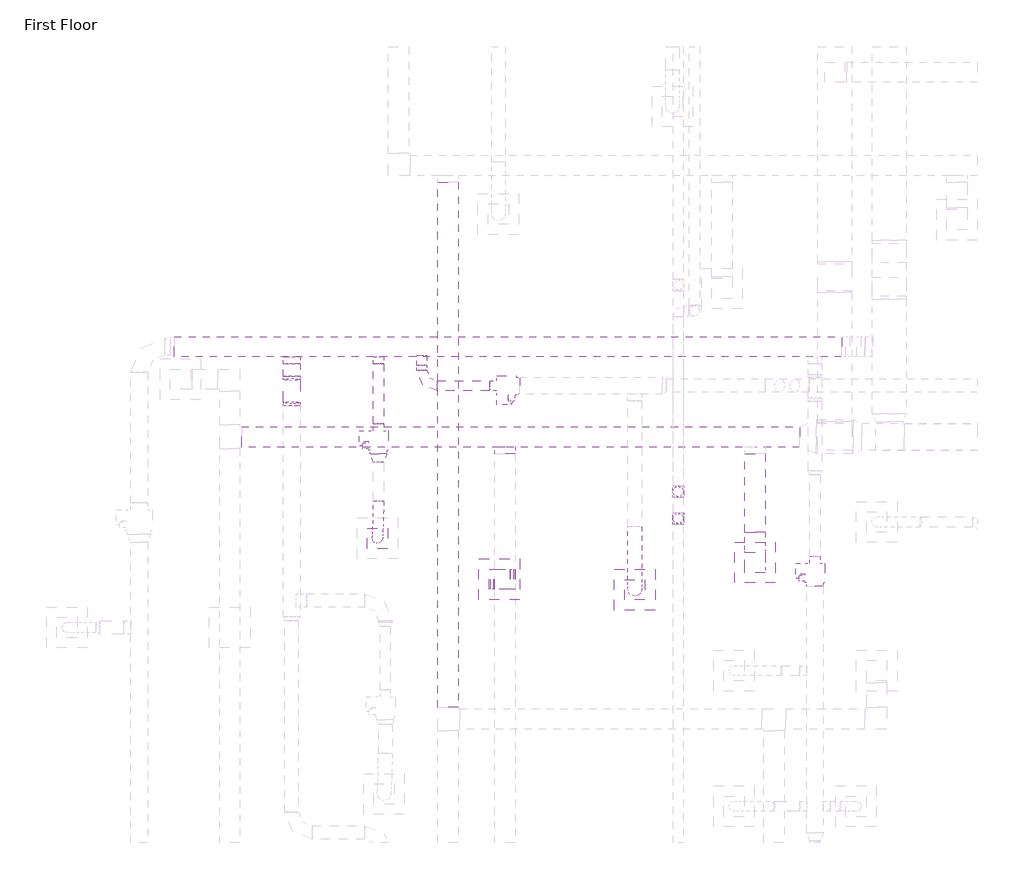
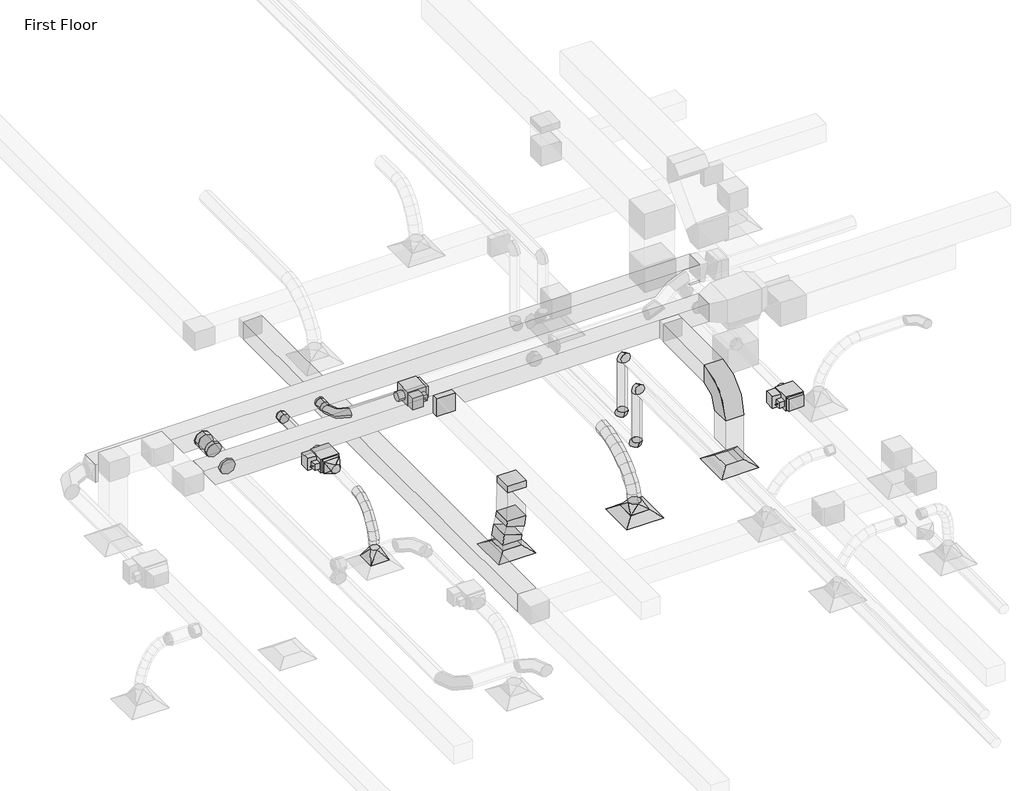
# One storey, part 5 of 61: 15 duct segments, 14 duct fittings, 4 pipe fittings, 3 air terminals, 3 proxies, 2 pipe segments.
"""IFC4 building model written with IfcOpenShell, lengths in millimetres."""

from ifc_helpers import new_model, si_unit, point, frame, frame_2d, origin, place, context, project, spatial, polyline, circle_curve, ellipse_curve, trimmed, segment, composite_curve, outline, extrude, transform, mapped, element, save
from ifc_brep_helpers import plane_surface, cylinder_surface, advanced_brep
from components import m_exhaust_grill_er_600_x_600_face_300_x_300_connection_ff221211, m_vav_unit_single_duct_150_mm_ffdab17b, m_rectangular_elbow_radius_1_5_w_86011e9f, m_rectangular_elbow_radius_1_5_w_1de02314, m_rectangular_takeoff_standard_b44bfa45, m_rectangular_takeoff_standard_6b8816d6, m_rectangular_to_round_transition_angle_45_degree_8f201c83, m_rectangular_to_round_transition_angle_45_degree_c3b12eae, m_rectangular_to_round_transition_angle_45_degree_60daae35, m_round_elbow_1_5_d_2e586196, m_round_elbow_1_5_d_30a58f77, m_round_takeoff_standard_ce92a222, m_round_takeoff_standard_b6d2ed4a, m_round_takeoff_standard_242be8e9, m_elbow_generic_standard_1652de39

model = new_model("IFC4")

# Units and contexts
model_context = context("Model", 3, world=origin())
ifc_project = project(units=[si_unit("LENGTHUNIT", "METRE", prefix="MILLI")], contexts=[model_context])

# Site, building, storey
site = spatial("IfcSite", under=ifc_project)
building = spatial("IfcBuilding", under=site)
storey = spatial("IfcBuildingStorey", under=building, Name="First Floor", Elevation=0.0)

# Air terminals
placement = place(None, origin())
m_exhaust_grill_er_600_x_600_face_300_x_300_connection_shape = m_exhaust_grill_er_600_x_600_face_300_x_300_connection_ff221211(model_context)
element("IfcAirTerminal", 1, ObjectType="M_Return Register : RR-600 x 600 Face 300 x 300 Connection", at=placement, inside=storey, context=model_context, shape_type="MappedRepresentation", body=[
    mapped(m_exhaust_grill_er_600_x_600_face_300_x_300_connection_shape, transform((-44809.2807972, 8437.277301, 2680.0), x_axis=(1.0, 0.0, 0.0), y_axis=(0.0, 1.0, 0.0), z_axis=(0.0, 0.0, 1.0))),
])
element("IfcAirTerminal", 2, ObjectType="M_Return Register : RR-600 x 600 Face 300 x 300 Connection", at=placement, inside=storey, context=model_context, shape_type="MappedRepresentation", body=[
    mapped(m_exhaust_grill_er_600_x_600_face_300_x_300_connection_shape, transform((-41042.2989734, 8681.7951782, 2680.0), x_axis=(1.0, 0.0, 0.0), y_axis=(0.0, 1.0, 0.0), z_axis=(0.0, 0.0, 1.0))),
])
element("IfcAirTerminal", 3, ObjectType="M_Supply Diffuser : SD-600 x 600 Face 300 x 300 Connection", at=placement, inside=storey, context=model_context, shape_type="MappedRepresentation", body=[
    mapped(m_exhaust_grill_er_600_x_600_face_300_x_300_connection_shape, transform((-42815.0807462, 8282.7245325, 2680.0), x_axis=(1.0, 0.0, 0.0), y_axis=(0.0, 1.0, 0.0), z_axis=(0.0, 0.0, 1.0))),
])

# Proxies
m_vav_unit_single_duct_150_mm_shape = m_vav_unit_single_duct_150_mm_ffdab17b(model_context)
element("IfcBuildingElementProxy", 4, Name="M_VAV Unit - Single Duct : 150 mm", ObjectType="M_VAV Unit - Single Duct : 150 mm", at=placement, inside=storey, context=model_context, shape_type="MappedRepresentation", body=[
    mapped(m_vav_unit_single_duct_150_mm_shape, transform((-46589.7634544, 10626.1176513, 3500.0), x_axis=(0.0, -1.0, 0.0), y_axis=(1.0, 0.0, 0.0), z_axis=(0.0, 0.0, 1.0))),
])
element("IfcBuildingElementProxy", 5, Name="M_VAV Unit - Single Duct : 150 mm", ObjectType="M_VAV Unit - Single Duct : 150 mm", at=placement, inside=storey, context=model_context, shape_type="MappedRepresentation", body=[
    mapped(m_vav_unit_single_duct_150_mm_shape, transform((-40159.2211613, 8673.9604859, 3499.9728744), x_axis=(0.0, -1.0, 0.0), y_axis=(1.0, 0.0, 0.0), z_axis=(0.0, 0.0, 1.0))),
])
element("IfcBuildingElementProxy", 6, Name="M_VAV Unit - Single Duct : 150 mm", ObjectType="M_VAV Unit - Single Duct : 150 mm", at=placement, inside=storey, context=model_context, shape_type="MappedRepresentation", body=[
    mapped(m_vav_unit_single_duct_150_mm_shape, transform((-44850.3815651, 11288.3243958, 3500.05), x_axis=(1.0000000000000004, 0.0, 0.0), y_axis=(0.0, 1.0000000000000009, 0.0), z_axis=(0.0, 0.0, 1.0000000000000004))),
])

# Duct fittings
m_rectangular_elbow_radius_1_5_w_shape = m_rectangular_elbow_radius_1_5_w_86011e9f(model_context)
element("IfcDuctFitting", 7, ObjectType="M_Rectangular Elbow - Radius : 1.5 W", at=placement, inside=storey, context=model_context, shape_type="MappedRepresentation", body=[
    mapped(m_rectangular_elbow_radius_1_5_w_shape, transform((-41042.2989734, 8681.7951782, 4000.0), x_axis=(0.0, 0.0, 1.0), y_axis=(0.0, 1.0, 0.0), z_axis=(-1.0, 0.0, 0.0))),
])
m_rectangular_elbow_radius_1_5_w_2_shape = m_rectangular_elbow_radius_1_5_w_1de02314(model_context)
element("IfcDuctFitting", 8, ObjectType="M_Rectangular Elbow - Radius : 1.5 W", at=placement, inside=storey, context=model_context, shape_type="MappedRepresentation", body=[
    mapped(m_rectangular_elbow_radius_1_5_w_2_shape, transform((-44809.2807972, 8437.277301, 2938.3615915), x_axis=(0.0, 0.0, 1.0), y_axis=(1.0, 0.0, 0.0), z_axis=(0.0, 1.0, 0.0))),
])
element("IfcDuctFitting", 9, ObjectType="M_Rectangular Elbow - Radius : 1.5 W", at=placement, inside=storey, context=model_context, shape_type="MappedRepresentation", body=[
    mapped(m_rectangular_elbow_radius_1_5_w_2_shape, transform((-44731.2844174, 8437.277301, 3192.5911285), x_axis=(0.29330219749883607, 0.0, 0.9560197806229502), y_axis=(-0.9560197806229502, 0.0, 0.29330219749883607), z_axis=(0.0, -1.0, 0.0))),
])
m_rectangular_takeoff_standard_shape = m_rectangular_takeoff_standard_b44bfa45(model_context)
element("IfcDuctFitting", 10, ObjectType="M_Rectangular Takeoff : Standard", at=placement, inside=storey, context=model_context, shape_type="MappedRepresentation", body=[
    mapped(m_rectangular_takeoff_standard_shape, transform((-44725.0192115, 10384.5124787, 4000.0), x_axis=(0.0, -1.0, 0.0), y_axis=(-1.0, 0.0, 0.0), z_axis=(0.0, 0.0, -1.0))),
])
m_rectangular_takeoff_standard_2_shape = m_rectangular_takeoff_standard_6b8816d6(model_context)
element("IfcDuctFitting", 11, ObjectType="M_Rectangular Takeoff : Standard", at=placement, inside=storey, context=model_context, shape_type="MappedRepresentation", body=[
    mapped(m_rectangular_takeoff_standard_2_shape, transform((-44723.7404207, 8437.277301, 3850.0), x_axis=(-0.012786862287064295, 0.0, -0.9999182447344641), y_axis=(0.9999182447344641, 0.0, -0.012786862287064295), z_axis=(0.0, -1.0, 0.0))),
])
m_rectangular_to_round_transition_angle_45_degree_shape = m_rectangular_to_round_transition_angle_45_degree_8f201c83(model_context)
element("IfcDuctFitting", 12, ObjectType="M_Rectangular to Round Transition - Angle : 45 Degree", at=placement, inside=storey, context=model_context, shape_type="MappedRepresentation", body=[
    mapped(m_rectangular_to_round_transition_angle_45_degree_shape, transform((-46605.270034, 9039.3672466, 2781.6), x_axis=(0.0, 0.0, 1.0), y_axis=(1.0, 0.0, 0.0), z_axis=(0.0, 1.0, 0.0))),
])
m_rectangular_to_round_transition_angle_45_degree_2_shape = m_rectangular_to_round_transition_angle_45_degree_c3b12eae(model_context)
element("IfcDuctFitting", 13, ObjectType="M_Rectangular to Round Transition - Angle : 45 Degree", at=placement, inside=storey, context=model_context, shape_type="MappedRepresentation", body=[
    mapped(m_rectangular_to_round_transition_angle_45_degree_2_shape, transform((-46589.7634544, 10283.3176513, 3619.05), x_axis=(0.0, -1.0, 0.0), y_axis=(1.0, 0.0, 0.0), z_axis=(0.0, 0.0, 1.0))),
])
m_rectangular_to_round_transition_angle_45_degree_3_shape = m_rectangular_to_round_transition_angle_45_degree_60daae35(model_context)
element("IfcDuctFitting", 14, ObjectType="M_Rectangular to Round Transition - Angle : 45 Degree", at=placement, inside=storey, context=model_context, shape_type="MappedRepresentation", body=[
    mapped(m_rectangular_to_round_transition_angle_45_degree_3_shape, transform((-42815.0807462, 8282.7245325, 2781.6), x_axis=(0.0, 0.0, 1.0), y_axis=(1.0, 0.0, 0.0), z_axis=(0.0, 1.0, 0.0))),
])
m_round_elbow_1_5_d_shape = m_round_elbow_1_5_d_2e586196(model_context)
element("IfcDuctFitting", 15, ObjectType="M_Round Elbow : 1.5 D", at=placement, inside=storey, context=model_context, shape_type="MappedRepresentation", body=[
    mapped(m_round_elbow_1_5_d_shape, transform((-45951.9815664, 11289.1743958, 3609.55), x_axis=(0.0, -1.0, 0.0), y_axis=(0.9999999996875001, 0.0, 2.4999999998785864e-05), z_axis=(-2.4999999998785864e-05, 0.0, 0.9999999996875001))),
])
m_round_elbow_1_5_d_2_shape = m_round_elbow_1_5_d_30a58f77(model_context)
element("IfcDuctFitting", 16, ObjectType="M_Round Elbow : 1.5 D", at=placement, inside=storey, context=model_context, shape_type="MappedRepresentation", body=[
    mapped(m_round_elbow_1_5_d_2_shape, transform((-47868.9134544, 11404.0724093, 3659.6), x_axis=(0.0, -1.0, 0.0), y_axis=(0.0, 0.0, -1.0), z_axis=(1.0, 0.0, 0.0))),
])
element("IfcDuctFitting", 17, ObjectType="M_Round Elbow : 1.5 D", at=placement, inside=storey, context=model_context, shape_type="MappedRepresentation", body=[
    mapped(m_round_elbow_1_5_d_2_shape, transform((-47868.9134544, 11014.3609651, 3609.5), x_axis=(0.0, -0.991837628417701, -0.12750732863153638), y_axis=(0.0, -0.12750732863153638, 0.991837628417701), z_axis=(-1.0, 0.0, 0.0))),
])
m_round_takeoff_standard_shape = m_round_takeoff_standard_ce92a222(model_context)
element("IfcDuctFitting", 18, ObjectType="M_Round Takeoff : Standard", at=placement, inside=storey, context=model_context, shape_type="MappedRepresentation", body=[
    mapped(m_round_takeoff_standard_shape, transform((-47868.9134544, 11711.1885196, 3659.6), x_axis=(0.0, -1.0, 0.0), y_axis=(-1.0, 0.0, 0.0), z_axis=(0.0, 0.0, -1.0))),
])
m_round_takeoff_standard_2_shape = m_round_takeoff_standard_b6d2ed4a(model_context)
element("IfcDuctFitting", 19, ObjectType="M_Round Takeoff : Standard", at=placement, inside=storey, context=model_context, shape_type="MappedRepresentation", body=[
    mapped(m_round_takeoff_standard_2_shape, transform((-46588.9134544, 11711.1885196, 3609.5033084), x_axis=(0.0, -0.9999999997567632, 2.2056146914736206e-05), y_axis=(-1.0, 0.0, 0.0), z_axis=(0.0, -2.2056146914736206e-05, -0.9999999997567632))),
])
m_round_takeoff_standard_3_shape = m_round_takeoff_standard_242be8e9(model_context)
element("IfcDuctFitting", 20, ObjectType="M_Round Takeoff : Standard", at=placement, inside=storey, context=model_context, shape_type="MappedRepresentation", body=[
    mapped(m_round_takeoff_standard_3_shape, transform((-45951.9815651, 11711.1885196, 3609.5), x_axis=(0.0, -1.0, 0.0), y_axis=(-1.0, 0.0, 0.0), z_axis=(0.0, 0.0, -1.0))),
])

# Duct segments
element("IfcDuctSegment", 21, ObjectType="Flex - Round", at=placement, inside=storey, context=model_context, shape_type="AdvancedBrep", body=[
    advanced_brep(
    [(-46514.7654131, 9582.7756174, 3609.5), (-46589.6689522, 9596.393364, 3535.6486845), (-46664.7614957, 9583.8596852, 3609.5), (-46589.8579566, 9570.2419385, 3683.3513155), (-46515.6274139, 9463.5056403, 3588.3816027), (-46590.446954, 9488.745824, 3516.5882002), (-46665.617425, 9465.4297793, 3588.5303489), (-46590.7978848, 9440.1895956, 3660.3237514), (-46530.2929882, 9037.5348379, 2962.3746904), (-46607.0530268, 8964.9525989, 2971.846493), (-46680.2470799, 9041.1996554, 2962.957344), (-46603.4870413, 9113.7818944, 2953.4855413), (-46517.8546353, 9350.6891413, 3530.1648621), (-46592.3089559, 9394.4289647, 3467.9178357), (-46667.8206549, 9353.8285386, 3530.9407185), (-46593.3663343, 9310.0887152, 3593.1877449), (-46520.8923729, 9249.0723623, 3442.9945987), (-46594.978388, 9305.1325455, 3391.316388), (-46670.8408814, 9252.7975315, 3444.2729497), (-46596.7548663, 9196.7373482, 3495.9511604), (-46524.1963235, 9162.7802862, 3334.7813597), (-46597.9568724, 9227.3409443, 3293.7630377), (-46674.1373991, 9166.6995855, 3336.3031566), (-46600.3768501, 9102.1389273, 3377.3214786), (-46527.2243588, 9095.978947, 3213.3986234), (-46600.7024422, 9166.7710648, 3183.7033023), (-46677.1673278, 9099.8564769, 3214.8445224), (-46603.6892445, 9029.0643591, 3244.5398435), (-46529.4353117, 9052.8567524, 3086.7368827), (-46602.6810638, 9128.1802336, 3070.3514215), (-46679.3868263, 9056.5676086, 3087.6932152), (-46606.1410741, 8981.2441275, 3104.0786764)],
    [
        (0, 1, circle_curve(frame((-46589.7634544, 9583.3176513, 3609.5), z_axis=(0.007116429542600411, 0.984658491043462, 0.17434739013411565), x_axis=(0.9999738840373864, -0.0072271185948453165, 0.0)), 75.0)),
        (1, 2, circle_curve(frame((-46589.7634544, 9583.3176513, 3609.5), z_axis=(0.007116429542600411, 0.984658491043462, 0.17434739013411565), x_axis=(0.9999738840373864, -0.0072271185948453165, 0.0)), 75.0)),
        (2, 3, circle_curve(frame((-46589.7634544, 9583.3176513, 3609.5), z_axis=(0.007116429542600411, 0.984658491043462, 0.17434739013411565), x_axis=(0.9999738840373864, -0.0072271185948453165, 0.0)), 75.0)),
        (3, 0, circle_curve(frame((-46589.7634544, 9583.3176513, 3609.5), z_axis=(0.007116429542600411, 0.984658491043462, 0.17434739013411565), x_axis=(0.9999738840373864, -0.0072271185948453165, 0.0)), 75.0)),
        (0, 4),
        (4, 5, ellipse_curve(frame((-46590.6224194, 9464.4677098, 3588.4559758), z_axis=(0.012470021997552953, 0.9473185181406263, 0.3200501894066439), x_axis=(-0.03473054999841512, 0.32029228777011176, -0.9466819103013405)), 75.8591903, 75.0)),
        (5, 1),
        (5, 6, ellipse_curve(frame((-46590.6224194, 9464.4677098, 3588.4559758), z_axis=(0.012470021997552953, 0.9473185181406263, 0.3200501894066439), x_axis=(-0.03473054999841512, 0.32029228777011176, -0.9466819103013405)), 75.8591903, 75.0)),
        (6, 2),
        (6, 7, ellipse_curve(frame((-46590.6224194, 9464.4677098, 3588.4559758), z_axis=(0.012470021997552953, 0.9473185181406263, 0.3200501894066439), x_axis=(-0.03473054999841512, 0.32029228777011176, -0.9466819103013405)), 75.8591903, 75.0)),
        (7, 3),
        (7, 4, ellipse_curve(frame((-46590.6224194, 9464.4677098, 3588.4559758), z_axis=(0.012470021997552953, 0.9473185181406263, 0.3200501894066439), x_axis=(-0.03473054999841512, 0.32029228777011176, -0.9466819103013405)), 75.8591903, 75.0)),
        (8, 9, circle_curve(frame((-46605.270034, 9039.3672466, 2962.6660172), z_axis=(-0.006844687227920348, -0.12227653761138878, -0.9924724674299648), x_axis=(0.9996939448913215, -0.024432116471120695, -0.0038843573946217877)), 75.0)),
        (9, 10, circle_curve(frame((-46605.270034, 9039.3672466, 2962.6660172), z_axis=(-0.006844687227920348, -0.12227653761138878, -0.9924724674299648), x_axis=(0.9996939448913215, -0.024432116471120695, -0.0038843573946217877)), 75.0)),
        (10, 11, circle_curve(frame((-46605.270034, 9039.3672466, 2962.6660172), z_axis=(-0.006844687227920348, -0.12227653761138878, -0.9924724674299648), x_axis=(0.9996939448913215, -0.024432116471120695, -0.0038843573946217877)), 75.0)),
        (11, 8, circle_curve(frame((-46605.270034, 9039.3672466, 2962.6660172), z_axis=(-0.006844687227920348, -0.12227653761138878, -0.9924724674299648), x_axis=(0.9996939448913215, -0.024432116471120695, -0.0038843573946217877)), 75.0)),
        (4, 12),
        (12, 13, ellipse_curve(frame((-46592.8376451, 9352.2588399, 3530.5527903), z_axis=(0.02024924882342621, 0.8292649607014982, 0.5584886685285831), x_axis=(-0.022154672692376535, 0.5588382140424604, -0.8289807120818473)), 75.5102819, 75.0)),
        (13, 5),
        (13, 14, ellipse_curve(frame((-46592.8376451, 9352.2588399, 3530.5527903), z_axis=(0.02024924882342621, 0.8292649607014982, 0.5584886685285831), x_axis=(-0.022154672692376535, 0.5588382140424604, -0.8289807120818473)), 75.5102819, 75.0)),
        (14, 6),
        (14, 15, ellipse_curve(frame((-46592.8376451, 9352.2588399, 3530.5527903), z_axis=(0.02024924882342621, 0.8292649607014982, 0.5584886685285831), x_axis=(-0.022154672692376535, 0.5588382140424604, -0.8289807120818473)), 75.5102819, 75.0)),
        (15, 7),
        (15, 12, ellipse_curve(frame((-46592.8376451, 9352.2588399, 3530.5527903), z_axis=(0.02024924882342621, 0.8292649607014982, 0.5584886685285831), x_axis=(-0.022154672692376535, 0.5588382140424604, -0.8289807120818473)), 75.5102819, 75.0)),
        (12, 16),
        (16, 17, ellipse_curve(frame((-46595.8666271, 9250.9349469, 3443.6337742), z_axis=(0.02337791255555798, 0.6941285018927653, 0.7194714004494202), x_axis=(-0.006271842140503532, 0.7197557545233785, -0.6941990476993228)), 75.3345481, 75.0)),
        (17, 13),
        (17, 18, ellipse_curve(frame((-46595.8666271, 9250.9349469, 3443.6337742), z_axis=(0.02337791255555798, 0.6941285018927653, 0.7194714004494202), x_axis=(-0.006271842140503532, 0.7197557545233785, -0.6941990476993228)), 75.3345481, 75.0)),
        (18, 14),
        (18, 19, ellipse_curve(frame((-46595.8666271, 9250.9349469, 3443.6337742), z_axis=(0.02337791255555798, 0.6941285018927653, 0.7194714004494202), x_axis=(-0.006271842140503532, 0.7197557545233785, -0.6941990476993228)), 75.3345481, 75.0)),
        (19, 15),
        (19, 16, ellipse_curve(frame((-46595.8666271, 9250.9349469, 3443.6337742), z_axis=(0.02337791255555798, 0.6941285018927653, 0.7194714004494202), x_axis=(-0.006271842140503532, 0.7197557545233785, -0.6941990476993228)), 75.3345481, 75.0)),
        (16, 20),
        (20, 21, ellipse_curve(frame((-46599.1668613, 9164.7399358, 3335.5422582), z_axis=(0.022940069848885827, 0.5546631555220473, 0.8317587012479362), x_axis=(0.011862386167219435, 0.8317680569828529, -0.5549965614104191)), 75.2718695, 75.0)),
        (21, 17),
        (21, 22, ellipse_curve(frame((-46599.1668613, 9164.7399358, 3335.5422582), z_axis=(0.022940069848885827, 0.5546631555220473, 0.8317587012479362), x_axis=(0.011862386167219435, 0.8317680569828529, -0.5549965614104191)), 75.2718695, 75.0)),
        (22, 18),
        (22, 23, ellipse_curve(frame((-46599.1668613, 9164.7399358, 3335.5422582), z_axis=(0.022940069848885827, 0.5546631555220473, 0.8317587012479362), x_axis=(0.011862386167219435, 0.8317680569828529, -0.5549965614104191)), 75.2718695, 75.0)),
        (23, 19),
        (23, 20, ellipse_curve(frame((-46599.1668613, 9164.7399358, 3335.5422582), z_axis=(0.022940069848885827, 0.5546631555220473, 0.8317587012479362), x_axis=(0.011862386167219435, 0.8317680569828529, -0.5549965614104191)), 75.2718695, 75.0)),
        (20, 24),
        (24, 25, ellipse_curve(frame((-46602.1958433, 9097.917712, 3214.1215729), z_axis=(0.019259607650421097, 0.4036803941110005, 0.9146973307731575), x_axis=(0.030483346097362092, 0.9142046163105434, -0.4041047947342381)), 75.2880507, 75.0)),
        (25, 21),
        (25, 26, ellipse_curve(frame((-46602.1958433, 9097.917712, 3214.1215729), z_axis=(0.019259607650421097, 0.4036803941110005, 0.9146973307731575), x_axis=(0.030483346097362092, 0.9142046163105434, -0.4041047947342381)), 75.2880507, 75.0)),
        (26, 22),
        (26, 27, ellipse_curve(frame((-46602.1958433, 9097.917712, 3214.1215729), z_axis=(0.019259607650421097, 0.4036803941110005, 0.9146973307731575), x_axis=(0.030483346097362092, 0.9142046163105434, -0.4041047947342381)), 75.2880507, 75.0)),
        (27, 23),
        (27, 24, ellipse_curve(frame((-46602.1958433, 9097.917712, 3214.1215729), z_axis=(0.019259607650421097, 0.4036803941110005, 0.9146973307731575), x_axis=(0.030483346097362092, 0.9142046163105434, -0.4041047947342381)), 75.2880507, 75.0)),
        (24, 28),
        (28, 29, ellipse_curve(frame((-46604.411069, 9054.7121805, 3087.215049), z_axis=(0.01174541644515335, 0.22344078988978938, 0.9746467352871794), x_axis=(0.04711249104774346, 0.9735078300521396, -0.22374744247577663)), 75.3987076, 75.0)),
        (29, 25),
        (29, 30, ellipse_curve(frame((-46604.411069, 9054.7121805, 3087.215049), z_axis=(0.01174541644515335, 0.22344078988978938, 0.9746467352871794), x_axis=(0.04711249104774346, 0.9735078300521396, -0.22374744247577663)), 75.3987076, 75.0)),
        (30, 26),
        (30, 31, ellipse_curve(frame((-46604.411069, 9054.7121805, 3087.215049), z_axis=(0.01174541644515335, 0.22344078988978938, 0.9746467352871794), x_axis=(0.04711249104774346, 0.9735078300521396, -0.22374744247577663)), 75.3987076, 75.0)),
        (31, 27),
        (31, 28, ellipse_curve(frame((-46604.411069, 9054.7121805, 3087.215049), z_axis=(0.01174541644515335, 0.22344078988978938, 0.9746467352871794), x_axis=(0.04711249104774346, 0.9735078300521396, -0.22374744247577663)), 75.3987076, 75.0)),
        (28, 8),
        (11, 29),
        (10, 30),
        (9, 31),
    ],
    [
        plane_surface(frame((-46589.7634544, 9596.3940367, 3535.6487431), z_axis=(0.007116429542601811, 0.9846584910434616, 0.17434739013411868), x_axis=(0.9999746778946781, -0.007007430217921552, -0.0012407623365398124))),
        cylinder_surface(frame((-46589.7634544, 9583.3176513, 3609.5), z_axis=(0.007116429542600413, 0.9846584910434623, 0.17434739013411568), x_axis=(0.9999738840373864, -0.0072271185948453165, 0.0)), 75.0),
        plane_surface(frame((-46605.270034, 9113.8044254, 2953.495062), z_axis=(-0.006844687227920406, -0.12227653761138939, -0.9924724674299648), x_axis=(0.9999765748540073, -0.0008369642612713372, -0.006793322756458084))),
        cylinder_surface(frame((-46590.6224194, 9464.4677098, 3588.4559758), z_axis=(0.017541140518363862, 0.8885196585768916, 0.4585031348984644), x_axis=(0.9998336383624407, -0.01788125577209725, -0.003599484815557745)), 75.0),
        cylinder_surface(frame((-46592.8376451, 9352.2588399, 3530.5527903), z_axis=(0.022683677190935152, 0.7588022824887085, 0.6509259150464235), x_axis=(0.9996956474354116, -0.023532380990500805, -0.007405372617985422)), 75.0),
        cylinder_surface(frame((-46595.8666271, 9250.9349469, 3443.6337742), z_axis=(0.023864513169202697, 0.6232897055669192, 0.7816267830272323), x_axis=(0.9996157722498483, -0.02590400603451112, -0.009863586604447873)), 75.0),
        cylinder_surface(frame((-46599.1668613, 9164.7399358, 3335.5422582), z_axis=(0.021849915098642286, 0.48202990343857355, 0.8758822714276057), x_axis=(0.9995992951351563, -0.026302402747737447, -0.010461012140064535)), 75.0),
        cylinder_surface(frame((-46602.1958433, 9097.917712, 3214.1215729), z_axis=(0.01652192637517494, 0.3222419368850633, 0.9465131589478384), x_axis=(0.9996352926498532, -0.025547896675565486, -0.008751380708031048)), 75.0),
        cylinder_surface(frame((-46604.411069, 9054.7121805, 3087.215049), z_axis=(0.00684468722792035, 0.1222765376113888, 0.992472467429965), x_axis=(0.9996939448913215, -0.024432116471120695, -0.0038843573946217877)), 75.0),
    ],
    [
        (0, [[1, 2, 3, 4]]),
        (1, [[-1, 5, 6, 7]]),
        (1, [[-2, -7, 8, 9]]),
        (1, [[-3, -9, 10, 11]]),
        (1, [[-4, -11, 12, -5]]),
        (2, [[13, 14, 15, 16]]),
        (3, [[-6, 17, 18, 19]]),
        (3, [[-8, -19, 20, 21]]),
        (3, [[-10, -21, 22, 23]]),
        (3, [[-12, -23, 24, -17]]),
        (4, [[-18, 25, 26, 27]]),
        (4, [[-20, -27, 28, 29]]),
        (4, [[-22, -29, 30, 31]]),
        (4, [[-24, -31, 32, -25]]),
        (5, [[-26, 33, 34, 35]]),
        (5, [[-28, -35, 36, 37]]),
        (5, [[-30, -37, 38, 39]]),
        (5, [[-32, -39, 40, -33]]),
        (6, [[-34, 41, 42, 43]]),
        (6, [[-36, -43, 44, 45]]),
        (6, [[-38, -45, 46, 47]]),
        (6, [[-40, -47, 48, -41]]),
        (7, [[-42, 49, 50, 51]]),
        (7, [[-44, -51, 52, 53]]),
        (7, [[-46, -53, 54, 55]]),
        (7, [[-48, -55, 56, -49]]),
        (8, [[-50, 57, -16, 58]]),
        (8, [[-52, -58, -15, 59]]),
        (8, [[-54, -59, -14, 60]]),
        (8, [[-56, -60, -13, -57]]),
    ],
),
])
element("IfcDuctSegment", 22, ObjectType="Flex - Round", at=placement, inside=storey, context=model_context, shape_type="AdvancedBrep", body=[
    advanced_brep(
    [(-42715.0807462, 9210.3305744, 3619.1), (-42815.0807462, 9218.9945106, 3519.4760259), (-42915.0807462, 9210.3305744, 3619.1), (-42815.0807462, 9201.6666383, 3718.7239741), (-42715.0807462, 9075.6034723, 3607.383272), (-42815.0807462, 9091.7382785, 3508.4090124), (-42915.0807462, 9075.6034723, 3607.383272), (-42815.0807462, 9059.4686661, 3706.3575315), (-42715.0807462, 8282.7245325, 2902.3106781), (-42815.0807462, 8183.8107047, 2917.0094759), (-42915.0807462, 8282.7245325, 2902.3106781), (-42815.0807462, 8381.6383604, 2887.6118803), (-42715.0807462, 8935.6760133, 3573.6668264), (-42815.0807462, 8965.4369227, 3477.9758664), (-42915.0807462, 8935.6760133, 3573.6668264), (-42815.0807462, 8905.9151039, 3669.3577864), (-42715.0807462, 8796.1690395, 3520.1012712), (-42815.0807462, 8837.8014765, 3428.9685419), (-42915.0807462, 8796.1690395, 3520.1012712), (-42815.0807462, 8754.5366024, 3611.2340005), (-42715.0807462, 8662.7033927, 3448.8372142), (-42815.0807462, 8715.4922641, 3363.6614693), (-42915.0807462, 8662.7033927, 3448.8372142), (-42815.0807462, 8609.9145212, 3534.0129591), (-42715.0807462, 8540.8999149, 3362.0252634), (-42815.0807462, 8604.858982, 3284.8107565), (-42915.0807462, 8540.8999149, 3362.0252634), (-42815.0807462, 8476.9408477, 3439.2397702), (-42715.0807462, 8436.379448, 3261.8160264), (-42815.0807462, 8511.8958626, 3195.6821529), (-42915.0807462, 8436.379448, 3261.8160264), (-42815.0807462, 8360.8630334, 3327.9498999), (-42715.0807462, 8354.762834, 3150.3601113), (-42815.0807462, 8441.8859038, 3100.076324), (-42915.0807462, 8354.762834, 3150.3601113), (-42815.0807462, 8267.6397643, 3200.6438986), (-42715.0807462, 8301.6709149, 3029.8081259), (-42815.0807462, 8398.6082789, 3001.8089477), (-42915.0807462, 8301.6709149, 3029.8081259), (-42815.0807462, 8204.7335509, 3057.8073042)],
    [
        (0, 1, circle_curve(frame((-42815.0807462, 9210.3305744, 3619.1), z_axis=(0.0, 0.99623974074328, 0.08663936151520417), x_axis=(1.0, 0.0, 0.0)), 100.0)),
        (1, 2, circle_curve(frame((-42815.0807462, 9210.3305744, 3619.1), z_axis=(0.0, 0.99623974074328, 0.08663936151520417), x_axis=(1.0, 0.0, 0.0)), 100.0)),
        (2, 3, circle_curve(frame((-42815.0807462, 9210.3305744, 3619.1), z_axis=(0.0, 0.99623974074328, 0.08663936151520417), x_axis=(1.0, 0.0, 0.0)), 100.0)),
        (3, 0, circle_curve(frame((-42815.0807462, 9210.3305744, 3619.1), z_axis=(0.0, 0.99623974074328, 0.08663936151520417), x_axis=(1.0, 0.0, 0.0)), 100.0)),
        (0, 4),
        (4, 5, ellipse_curve(frame((-42815.0807462, 9075.6034723, 3607.383272), z_axis=(0.0, 0.986971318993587, 0.1608962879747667), x_axis=(0.0, 0.1608962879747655, -0.9869713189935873)), 100.2807859, 100.0)),
        (5, 1),
        (5, 6, ellipse_curve(frame((-42815.0807462, 9075.6034723, 3607.383272), z_axis=(0.0, 0.986971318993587, 0.1608962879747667), x_axis=(0.0, 0.1608962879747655, -0.9869713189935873)), 100.2807859, 100.0)),
        (6, 2),
        (6, 7, ellipse_curve(frame((-42815.0807462, 9075.6034723, 3607.383272), z_axis=(0.0, 0.986971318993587, 0.1608962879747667), x_axis=(0.0, 0.1608962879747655, -0.9869713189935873)), 100.2807859, 100.0)),
        (7, 3),
        (7, 4, ellipse_curve(frame((-42815.0807462, 9075.6034723, 3607.383272), z_axis=(0.0, 0.986971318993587, 0.1608962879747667), x_axis=(0.0, 0.1608962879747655, -0.9869713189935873)), 100.2807859, 100.0)),
        (8, 9, circle_curve(frame((-42815.0807462, 8282.7245325, 2902.3106781), z_axis=(0.0, -0.1469879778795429, -0.9891382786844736), x_axis=(1.0, 0.0, 0.0)), 100.0)),
        (9, 10, circle_curve(frame((-42815.0807462, 8282.7245325, 2902.3106781), z_axis=(0.0, -0.1469879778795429, -0.9891382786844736), x_axis=(1.0, 0.0, 0.0)), 100.0)),
        (10, 11, circle_curve(frame((-42815.0807462, 8282.7245325, 2902.3106781), z_axis=(0.0, -0.1469879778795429, -0.9891382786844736), x_axis=(1.0, 0.0, 0.0)), 100.0)),
        (11, 8, circle_curve(frame((-42815.0807462, 8282.7245325, 2902.3106781), z_axis=(0.0, -0.1469879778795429, -0.9891382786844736), x_axis=(1.0, 0.0, 0.0)), 100.0)),
        (4, 12),
        (12, 13, ellipse_curve(frame((-42815.0807462, 8935.6760133, 3573.6668264), z_axis=(0.0, 0.9548839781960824, 0.2969791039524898), x_axis=(0.0, 0.2969791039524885, -0.9548839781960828)), 100.2121328, 100.0)),
        (13, 5),
        (13, 14, ellipse_curve(frame((-42815.0807462, 8935.6760133, 3573.6668264), z_axis=(0.0, 0.9548839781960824, 0.2969791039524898), x_axis=(0.0, 0.2969791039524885, -0.9548839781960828)), 100.2121328, 100.0)),
        (14, 6),
        (14, 15, ellipse_curve(frame((-42815.0807462, 8935.6760133, 3573.6668264), z_axis=(0.0, 0.9548839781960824, 0.2969791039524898), x_axis=(0.0, 0.2969791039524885, -0.9548839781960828)), 100.2121328, 100.0)),
        (15, 7),
        (15, 12, ellipse_curve(frame((-42815.0807462, 8935.6760133, 3573.6668264), z_axis=(0.0, 0.9548839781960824, 0.2969791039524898), x_axis=(0.0, 0.2969791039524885, -0.9548839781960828)), 100.2121328, 100.0)),
        (12, 16),
        (16, 17, ellipse_curve(frame((-42815.0807462, 8796.1690395, 3520.1012712), z_axis=(0.0, 0.909581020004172, 0.41552661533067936), x_axis=(0.0, 0.41552661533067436, -0.9095810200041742)), 100.1919865, 100.0)),
        (17, 13),
        (17, 18, ellipse_curve(frame((-42815.0807462, 8796.1690395, 3520.1012712), z_axis=(0.0, 0.909581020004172, 0.41552661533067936), x_axis=(0.0, 0.41552661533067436, -0.9095810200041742)), 100.1919865, 100.0)),
        (18, 14),
        (18, 19, ellipse_curve(frame((-42815.0807462, 8796.1690395, 3520.1012712), z_axis=(0.0, 0.909581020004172, 0.41552661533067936), x_axis=(0.0, 0.41552661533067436, -0.9095810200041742)), 100.1919865, 100.0)),
        (19, 15),
        (19, 16, ellipse_curve(frame((-42815.0807462, 8796.1690395, 3520.1012712), z_axis=(0.0, 0.909581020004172, 0.41552661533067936), x_axis=(0.0, 0.41552661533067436, -0.9095810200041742)), 100.1919865, 100.0)),
        (16, 20),
        (20, 21, ellipse_curve(frame((-42815.0807462, 8662.7033927, 3448.8372142), z_axis=(0.0, 0.8499924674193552, 0.5267948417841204), x_axis=(0.0, 0.526794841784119, -0.8499924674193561)), 100.2076468, 100.0)),
        (21, 17),
        (21, 22, ellipse_curve(frame((-42815.0807462, 8662.7033927, 3448.8372142), z_axis=(0.0, 0.8499924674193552, 0.5267948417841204), x_axis=(0.0, 0.526794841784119, -0.8499924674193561)), 100.2076468, 100.0)),
        (22, 18),
        (22, 23, ellipse_curve(frame((-42815.0807462, 8662.7033927, 3448.8372142), z_axis=(0.0, 0.8499924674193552, 0.5267948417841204), x_axis=(0.0, 0.526794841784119, -0.8499924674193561)), 100.2076468, 100.0)),
        (23, 19),
        (23, 20, ellipse_curve(frame((-42815.0807462, 8662.7033927, 3448.8372142), z_axis=(0.0, 0.8499924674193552, 0.5267948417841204), x_axis=(0.0, 0.526794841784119, -0.8499924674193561)), 100.2076468, 100.0)),
        (20, 24),
        (24, 25, ellipse_curve(frame((-42815.0807462, 8540.8999149, 3362.0252634), z_axis=(0.0, 0.7701130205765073, 0.6379074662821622), x_axis=(0.0, 0.6379074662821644, -0.7701130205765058)), 100.2638636, 100.0)),
        (25, 21),
        (25, 26, ellipse_curve(frame((-42815.0807462, 8540.8999149, 3362.0252634), z_axis=(0.0, 0.7701130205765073, 0.6379074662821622), x_axis=(0.0, 0.6379074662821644, -0.7701130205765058)), 100.2638636, 100.0)),
        (26, 22),
        (26, 27, ellipse_curve(frame((-42815.0807462, 8540.8999149, 3362.0252634), z_axis=(0.0, 0.7701130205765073, 0.6379074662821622), x_axis=(0.0, 0.6379074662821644, -0.7701130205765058)), 100.2638636, 100.0)),
        (27, 23),
        (27, 24, ellipse_curve(frame((-42815.0807462, 8540.8999149, 3362.0252634), z_axis=(0.0, 0.7701130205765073, 0.6379074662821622), x_axis=(0.0, 0.6379074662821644, -0.7701130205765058)), 100.2638636, 100.0)),
        (24, 28),
        (28, 29, ellipse_curve(frame((-42815.0807462, 8436.379448, 3261.8160264), z_axis=(0.0, 0.6588262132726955, 0.7522951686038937), x_axis=(0.0, 0.7522951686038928, -0.6588262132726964)), 100.3813633, 100.0)),
        (29, 25),
        (29, 30, ellipse_curve(frame((-42815.0807462, 8436.379448, 3261.8160264), z_axis=(0.0, 0.6588262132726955, 0.7522951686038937), x_axis=(0.0, 0.7522951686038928, -0.6588262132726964)), 100.3813633, 100.0)),
        (30, 26),
        (30, 31, ellipse_curve(frame((-42815.0807462, 8436.379448, 3261.8160264), z_axis=(0.0, 0.6588262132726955, 0.7522951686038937), x_axis=(0.0, 0.7522951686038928, -0.6588262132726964)), 100.3813633, 100.0)),
        (31, 27),
        (31, 28, ellipse_curve(frame((-42815.0807462, 8436.379448, 3261.8160264), z_axis=(0.0, 0.6588262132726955, 0.7522951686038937), x_axis=(0.0, 0.7522951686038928, -0.6588262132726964)), 100.3813633, 100.0)),
        (28, 32),
        (32, 33, ellipse_curve(frame((-42815.0807462, 8354.762834, 3150.3601113), z_axis=(0.0, 0.4998751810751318, 0.8660974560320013), x_axis=(0.0, 0.8660974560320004, -0.4998751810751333)), 100.5926864, 100.0)),
        (33, 29),
        (33, 34, ellipse_curve(frame((-42815.0807462, 8354.762834, 3150.3601113), z_axis=(0.0, 0.4998751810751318, 0.8660974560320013), x_axis=(0.0, 0.8660974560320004, -0.4998751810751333)), 100.5926864, 100.0)),
        (34, 30),
        (34, 35, ellipse_curve(frame((-42815.0807462, 8354.762834, 3150.3601113), z_axis=(0.0, 0.4998751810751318, 0.8660974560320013), x_axis=(0.0, 0.8660974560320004, -0.4998751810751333)), 100.5926864, 100.0)),
        (35, 31),
        (35, 32, ellipse_curve(frame((-42815.0807462, 8354.762834, 3150.3601113), z_axis=(0.0, 0.4998751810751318, 0.8660974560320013), x_axis=(0.0, 0.8660974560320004, -0.4998751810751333)), 100.5926864, 100.0)),
        (32, 36),
        (36, 37, ellipse_curve(frame((-42815.0807462, 8301.6709149, 3029.8081259), z_axis=(0.0, 0.2774943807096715, 0.9607272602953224), x_axis=(0.0, 0.9607272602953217, -0.27749438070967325)), 100.8999828, 100.0)),
        (37, 33),
        (37, 38, ellipse_curve(frame((-42815.0807462, 8301.6709149, 3029.8081259), z_axis=(0.0, 0.2774943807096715, 0.9607272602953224), x_axis=(0.0, 0.9607272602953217, -0.27749438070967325)), 100.8999828, 100.0)),
        (38, 34),
        (38, 39, ellipse_curve(frame((-42815.0807462, 8301.6709149, 3029.8081259), z_axis=(0.0, 0.2774943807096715, 0.9607272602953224), x_axis=(0.0, 0.9607272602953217, -0.27749438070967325)), 100.8999828, 100.0)),
        (39, 35),
        (39, 36, ellipse_curve(frame((-42815.0807462, 8301.6709149, 3029.8081259), z_axis=(0.0, 0.2774943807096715, 0.9607272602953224), x_axis=(0.0, 0.9607272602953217, -0.27749438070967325)), 100.8999828, 100.0)),
        (36, 8),
        (11, 37),
        (10, 38),
        (9, 39),
    ],
    [
        plane_surface(frame((-42815.0807462, 9218.9945106, 3519.4760259), z_axis=(0.0, 0.99623974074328, 0.0866393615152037), x_axis=(1.0, 0.0, 0.0))),
        cylinder_surface(frame((-42815.0807462, 9210.3305744, 3619.1), z_axis=(0.0, 0.99623974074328, 0.08663936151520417), x_axis=(1.0, 0.0, 0.0)), 100.0),
        plane_surface(frame((-42815.0807462, 8381.6383604, 2887.6118803), z_axis=(0.0, -0.14698797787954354, -0.9891382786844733), x_axis=(1.0, 0.0, 0.0))),
        cylinder_surface(frame((-42815.0807462, 9075.6034723, 3607.383272), z_axis=(0.0, 0.9721758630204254, 0.23425219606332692), x_axis=(1.0, 0.0, 0.0)), 100.0),
        cylinder_surface(frame((-42815.0807462, 8935.6760133, 3573.6668264), z_axis=(0.0, 0.9335494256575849, 0.35844869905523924), x_axis=(1.0, 0.0, 0.0)), 100.0),
        cylinder_surface(frame((-42815.0807462, 8796.1690395, 3520.1012712), z_axis=(0.0, 0.8821267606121, 0.4710120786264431), x_axis=(1.0, 0.0, 0.0)), 100.0),
        cylinder_surface(frame((-42815.0807462, 8662.7033927, 3448.8372142), z_axis=(0.0, 0.8143355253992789, 0.5803943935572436), x_axis=(1.0, 0.0, 0.0)), 100.0),
        cylinder_surface(frame((-42815.0807462, 8540.8999149, 3362.0252634), z_axis=(0.0, 0.7218371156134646, 0.692062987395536), x_axis=(1.0, 0.0, 0.0)), 100.0),
        cylinder_surface(frame((-42815.0807462, 8436.379448, 3261.8160264), z_axis=(0.0, 0.5908093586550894, 0.8068111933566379), x_axis=(1.0, 0.0, 0.0)), 100.0),
        cylinder_surface(frame((-42815.0807462, 8354.762834, 3150.3601113), z_axis=(0.0, 0.403050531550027, 0.9151777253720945), x_axis=(1.0, 0.0, 0.0)), 100.0),
        cylinder_surface(frame((-42815.0807462, 8301.6709149, 3029.8081259), z_axis=(0.0, 0.14698797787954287, 0.9891382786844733), x_axis=(1.0, 0.0, 0.0)), 100.0),
    ],
    [
        (0, [[1, 2, 3, 4]]),
        (1, [[-1, 5, 6, 7]]),
        (1, [[-2, -7, 8, 9]]),
        (1, [[-3, -9, 10, 11]]),
        (1, [[-4, -11, 12, -5]]),
        (2, [[13, 14, 15, 16]]),
        (3, [[-6, 17, 18, 19]]),
        (3, [[-8, -19, 20, 21]]),
        (3, [[-10, -21, 22, 23]]),
        (3, [[-12, -23, 24, -17]]),
        (4, [[-18, 25, 26, 27]]),
        (4, [[-20, -27, 28, 29]]),
        (4, [[-22, -29, 30, 31]]),
        (4, [[-24, -31, 32, -25]]),
        (5, [[-26, 33, 34, 35]]),
        (5, [[-28, -35, 36, 37]]),
        (5, [[-30, -37, 38, 39]]),
        (5, [[-32, -39, 40, -33]]),
        (6, [[-34, 41, 42, 43]]),
        (6, [[-36, -43, 44, 45]]),
        (6, [[-38, -45, 46, 47]]),
        (6, [[-40, -47, 48, -41]]),
        (7, [[-42, 49, 50, 51]]),
        (7, [[-44, -51, 52, 53]]),
        (7, [[-46, -53, 54, 55]]),
        (7, [[-48, -55, 56, -49]]),
        (8, [[-50, 57, 58, 59]]),
        (8, [[-52, -59, 60, 61]]),
        (8, [[-54, -61, 62, 63]]),
        (8, [[-56, -63, 64, -57]]),
        (9, [[-58, 65, 66, 67]]),
        (9, [[-60, -67, 68, 69]]),
        (9, [[-62, -69, 70, 71]]),
        (9, [[-64, -71, 72, -65]]),
        (10, [[-66, 73, -16, 74]]),
        (10, [[-68, -74, -15, 75]]),
        (10, [[-70, -75, -14, 76]]),
        (10, [[-72, -76, -13, -73]]),
    ],
),
])
element("IfcDuctSegment", 23, ObjectType="Mitered Elbows / Taps", at=placement, inside=storey, context=model_context, shape_type="SweptSolid", body=[
    extrude(outline(polyline([(150.0, 62.1320344), (-150.0, 62.1320344), (-150.0, 362.1320344), (150.0, 362.1320344), (150.0, 62.1320344)])), frame((-44731.2844174, 8225.1452666, 3260.0679456), z_axis=(0.012786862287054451, 0.0, 0.9999182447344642), x_axis=(0.9999182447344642, 0.0, -0.012786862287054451)), (0.0, 0.0, 1.0), 488.0621023),
])
element("IfcDuctSegment", 24, ObjectType="Mitered Elbows / Taps", at=placement, inside=storey, context=model_context, shape_type="SweptSolid", body=[
    extrude(outline(polyline([(-48606.3815051, 10384.5124787), (-48606.3815051, 10684.5124787), (-40383.8409124, 10684.5124787), (-40383.8409124, 10384.5124787), (-48606.3815051, 10384.5124787)])), frame((0.0, 0.0, 3850.0), z_axis=(0.0, 0.0, 1.0), x_axis=(1.0, 0.0, 0.0)), (0.0, 0.0, 1.0), 300.0),
])
element("IfcDuctSegment", 25, ObjectType="Mitered Elbows / Taps", at=placement, inside=storey, context=model_context, shape_type="SweptSolid", body=[
    extrude(outline(polyline([(-45715.5775939, 14284.3952), (-45415.5775939, 14284.3952), (-45415.5775939, 6551.0224534), (-45715.5775939, 6551.0224534), (-45715.5775939, 14284.3952)])), frame((0.0, 0.0, 3050.0), z_axis=(0.0, 0.0, 1.0), x_axis=(1.0, 0.0, 0.0)), (0.0, 0.0, 1.0), 300.0),
])
element("IfcDuctSegment", 26, ObjectType="Radius Elbows / Taps", at=placement, inside=storey, context=model_context, shape_type="SweptSolid", body=[
    extrude(outline(polyline([(-49597.8923472, 11711.1885196), (-49597.8923472, 12011.1885196), (-39765.6284462, 12011.1885196), (-39765.6284462, 11711.1885196), (-49597.8923472, 11711.1885196)])), frame((0.0, 0.0, 3509.6), z_axis=(0.0, 0.0, 1.0), x_axis=(1.0, 0.0, 0.0)), (0.0, 0.0, 1.0), 300.0),
])
element("IfcDuctSegment", 27, ObjectType="Radius Elbows / Taps", at=placement, inside=storey, context=model_context, shape_type="SweptSolid", body=[
    extrude(outline(polyline([(-40892.2989734, 9131.7951782), (-41192.2989734, 9131.7951782), (-41192.2989734, 10284.5124787), (-40892.2989734, 10284.5124787), (-40892.2989734, 9131.7951782)])), frame((0.0, 0.0, 3850.0), z_axis=(0.0, 0.0, 1.0), x_axis=(1.0, 0.0, 0.0)), (0.0, 0.0, 1.0), 300.0),
])
element("IfcDuctSegment", 28, ObjectType="Radius Elbows / Taps", at=placement, inside=storey, context=model_context, shape_type="SweptSolid", body=[
    extrude(outline(polyline([(-41192.2989734, 8831.7951782), (-40892.2989734, 8831.7951782), (-40892.2989734, 8531.7951782), (-41192.2989734, 8531.7951782), (-41192.2989734, 8831.7951782)])), frame((0.0, 0.0, 2781.6), z_axis=(0.0, 0.0, 1.0), x_axis=(1.0, 0.0, 0.0)), (0.0, 0.0, 1.0), 768.4),
])
element("IfcDuctSegment", 29, ObjectType="Radius Elbows / Taps", at=placement, inside=storey, context=model_context, shape_type="SweptSolid", body=[
    extrude(outline(polyline([(150.0, 362.1320344), (150.0, 62.1320344), (-150.0, 62.1320344), (-150.0, 362.1320344), (150.0, 362.1320344)])), frame((-44789.4896985, 8225.1452666, 3002.8707633), z_axis=(0.2933021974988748, 0.0, 0.9560197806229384), x_axis=(0.9560197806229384, 0.0, -0.2933021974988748)), (0.0, 0.0, 1.0), 130.9713417),
])
element("IfcDuctSegment", 30, ObjectType="Radius Elbows / Taps", at=placement, inside=storey, context=model_context, shape_type="SweptSolid", body=[
    extrude(outline(polyline([(-44659.2807972, 8287.277301), (-44959.2807972, 8287.277301), (-44959.2807972, 8587.277301), (-44659.2807972, 8587.277301), (-44659.2807972, 8287.277301)])), frame((0.0, 0.0, 2781.6), z_axis=(0.0, 0.0, 1.0), x_axis=(1.0, 0.0, 0.0)), (0.0, 0.0, 1.0), 89.2847744),
])
element("IfcDuctSegment", 31, ObjectType="Taps", at=placement, inside=storey, context=model_context, shape_type="SweptSolid", body=[
    extrude(outline(composite_curve([segment(trimmed(circle_curve(frame_2d((3659.6, -47868.9134544)), 125.0), [point((3659.6, -47993.9134544))], [point((3534.6, -47868.9134544))], False, "CARTESIAN"), True, "CONTINUOUS"), segment(trimmed(circle_curve(frame_2d((3659.6, -47868.9134544)), 125.0), [point((3534.6, -47868.9134544))], [point((3659.6, -47743.9134544))], False, "CARTESIAN"), True, "CONTINUOUS"), segment(trimmed(circle_curve(frame_2d((3659.6, -47868.9134544)), 125.0), [point((3659.6, -47743.9134544))], [point((3784.6, -47868.9134544))], False, "CARTESIAN"), True, "CONTINUOUS"), segment(trimmed(circle_curve(frame_2d((3659.6, -47868.9134544)), 125.0), [point((3784.6, -47868.9134544))], [point((3659.6, -47993.9134544))], False, "CARTESIAN"), True, "CONTINUOUS")], self_intersect=False)), frame((0.0, 11428.0780047, 0.0), z_axis=(0.0, 1.0, 0.0), x_axis=(0.0, 0.0, 1.0)), (0.0, 0.0, 1.0), 183.1105149),
])
element("IfcDuctSegment", 32, ObjectType="Taps", at=placement, inside=storey, context=model_context, shape_type="SweptSolid", body=[
    extrude(outline(composite_curve([segment(trimmed(circle_curve(frame_2d((0.0, -124.9999999)), 125.0), [point((-125.0, -124.9999999))], [point((0.0, 0.0))], False, "CARTESIAN"), True, "CONTINUOUS"), segment(trimmed(circle_curve(frame_2d((0.0, -124.9999999)), 125.0), [point((0.0, 0.0))], [point((125.0, -124.9999999))], False, "CARTESIAN"), True, "CONTINUOUS"), segment(trimmed(circle_curve(frame_2d((0.0, -124.9999999)), 125.0), [point((125.0, -124.9999999))], [point((0.0, -250.0))], False, "CARTESIAN"), True, "CONTINUOUS"), segment(trimmed(circle_curve(frame_2d((0.0, -124.9999999)), 125.0), [point((0.0, -250.0))], [point((-125.0, -124.9999999))], False, "CARTESIAN"), True, "CONTINUOUS")], self_intersect=False)), frame((-47868.9134544, 11054.109034, 3488.5811858), z_axis=(0.0, 0.9918376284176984, 0.12750732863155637), x_axis=(1.0, 0.0, 0.0)), (0.0, 0.0, 1.0), 344.9074009),
])
element("IfcDuctSegment", 33, ObjectType="Taps", at=placement, inside=storey, context=model_context, shape_type="SweptSolid", body=[
    extrude(outline(composite_curve([segment(trimmed(circle_curve(frame_2d((0.0, 75.0)), 75.0), [point((0.0, 0.0))], [point((-75.0, 75.0))], False, "CARTESIAN"), True, "CONTINUOUS"), segment(trimmed(circle_curve(frame_2d((0.0, 75.0)), 75.0), [point((-75.0, 75.0))], [point((0.0, 150.0))], False, "CARTESIAN"), True, "CONTINUOUS"), segment(trimmed(circle_curve(frame_2d((0.0, 75.0)), 75.0), [point((0.0, 150.0))], [point((75.0, 75.0))], False, "CARTESIAN"), True, "CONTINUOUS"), segment(trimmed(circle_curve(frame_2d((0.0, 75.0)), 75.0), [point((75.0, 75.0))], [point((0.0, 0.0))], False, "CARTESIAN"), True, "CONTINUOUS")], self_intersect=False)), frame((-46663.9134544, 11611.1868654, 3609.5055141), z_axis=(0.0, -0.9999999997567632, 2.2056146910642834e-05), x_axis=(0.0, -2.2056146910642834e-05, -0.9999999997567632)), (0.0, 0.0, 1.0), 883.4692143),
])
element("IfcDuctSegment", 34, ObjectType="Taps", at=placement, inside=storey, context=model_context, shape_type="SweptSolid", body=[
    extrude(outline(composite_curve([segment(trimmed(circle_curve(frame_2d((0.0, -75.0)), 75.0), [point((-75.0, -75.0))], [point((0.0, 0.0))], False, "CARTESIAN"), True, "CONTINUOUS"), segment(trimmed(circle_curve(frame_2d((0.0, -75.0)), 75.0), [point((0.0, 0.0))], [point((75.0, -75.0))], False, "CARTESIAN"), True, "CONTINUOUS"), segment(trimmed(circle_curve(frame_2d((0.0, -75.0)), 75.0), [point((75.0, -75.0))], [point((0.0, -150.0))], False, "CARTESIAN"), True, "CONTINUOUS"), segment(trimmed(circle_curve(frame_2d((0.0, -75.0)), 75.0), [point((0.0, -150.0))], [point((-75.0, -75.0))], False, "CARTESIAN"), True, "CONTINUOUS")], self_intersect=False)), frame((-45726.9796915, 11289.1743958, 3534.555625), z_axis=(0.9999999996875, 0.0, 2.5000000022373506e-05), x_axis=(0.0, -1.0, 0.0)), (0.0, 0.0, 1.0), 775.0000016),
])
element("IfcDuctSegment", 35, ObjectType="Taps", at=placement, inside=storey, context=model_context, shape_type="SweptSolid", body=[
    extrude(outline(composite_curve([segment(trimmed(circle_curve(frame_2d((0.0, 75.0)), 75.0), [point((0.0, 0.0))], [point((-75.0, 75.0))], False, "CARTESIAN"), True, "CONTINUOUS"), segment(trimmed(circle_curve(frame_2d((0.0, 75.0)), 75.0), [point((-75.0, 75.0))], [point((0.0, 150.0))], False, "CARTESIAN"), True, "CONTINUOUS"), segment(trimmed(circle_curve(frame_2d((0.0, 75.0)), 75.0), [point((0.0, 150.0))], [point((75.0, 75.0))], False, "CARTESIAN"), True, "CONTINUOUS"), segment(trimmed(circle_curve(frame_2d((0.0, 75.0)), 75.0), [point((75.0, 75.0))], [point((0.0, 0.0))], False, "CARTESIAN"), True, "CONTINUOUS")], self_intersect=False)), frame((-46026.9815651, 11592.4443065, 3609.5), z_axis=(-1.5970828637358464e-08, -0.9999997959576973, 0.0006388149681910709), x_axis=(-1.0203393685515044e-11, -0.0006388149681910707, -0.9999997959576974)), (0.0, 0.0, 1.0), 78.2699255),
])

# Pipe fittings
m_elbow_generic_standard_shape = m_elbow_generic_standard_1652de39(model_context)
element("IfcPipeFitting", 36, ObjectType="M_Elbow - Generic : Standard", at=placement, inside=storey, context=model_context, shape_type="MappedRepresentation", body=[
    mapped(m_elbow_generic_standard_shape, transform((-42173.6892157, 9330.3362305, 4000.0), x_axis=(0.0, 1.0, 0.0), y_axis=(0.0, 0.0, -1.0), z_axis=(-1.0, 0.0, 0.0))),
])
element("IfcPipeFitting", 37, ObjectType="M_Elbow - Generic : Standard", at=placement, inside=storey, context=model_context, shape_type="MappedRepresentation", body=[
    mapped(m_elbow_generic_standard_shape, transform((-42173.6892157, 9330.3362305, 3000.0), x_axis=(0.0, 0.0, -1.0), y_axis=(0.0, 1.0, 0.0), z_axis=(1.0, 0.0, 0.0))),
])
element("IfcPipeFitting", 38, ObjectType="M_Elbow - Generic : Standard", at=placement, inside=storey, context=model_context, shape_type="MappedRepresentation", body=[
    mapped(m_elbow_generic_standard_shape, transform((-42173.6892157, 9730.3362305, 4300.0), x_axis=(0.0, 1.0, 0.0), y_axis=(0.0, 0.0, -1.0), z_axis=(-1.0, 0.0, 0.0))),
])
element("IfcPipeFitting", 39, ObjectType="M_Elbow - Generic : Standard", at=placement, inside=storey, context=model_context, shape_type="MappedRepresentation", body=[
    mapped(m_elbow_generic_standard_shape, transform((-42173.6892157, 9730.3362305, 3280.0), x_axis=(0.0, 0.0, -1.0), y_axis=(0.0, 1.0, 0.0), z_axis=(1.0, 0.0, 0.0))),
])

# Pipe segments
element("IfcPipeSegment", 40, ObjectType="Standard", at=placement, inside=storey, context=model_context, shape_type="SweptSolid", body=[
    extrude(outline(composite_curve([segment(trimmed(circle_curve(frame_2d((-42173.6892157, 9330.3362305)), 76.2), [point((-42097.4892157, 9330.3362305))], [point((-42173.6892157, 9254.1362305))], False, "CARTESIAN"), True, "CONTINUOUS"), segment(trimmed(circle_curve(frame_2d((-42173.6892157, 9330.3362305)), 76.2), [point((-42173.6892157, 9254.1362305))], [point((-42249.8892157, 9330.3362305))], False, "CARTESIAN"), True, "CONTINUOUS"), segment(trimmed(circle_curve(frame_2d((-42173.6892157, 9330.3362305)), 76.2), [point((-42249.8892157, 9330.3362305))], [point((-42173.6892157, 9406.5362305))], False, "CARTESIAN"), True, "CONTINUOUS"), segment(trimmed(circle_curve(frame_2d((-42173.6892157, 9330.3362305)), 76.2), [point((-42173.6892157, 9406.5362305))], [point((-42097.4892157, 9330.3362305))], False, "CARTESIAN"), True, "CONTINUOUS")], self_intersect=False)), frame((0.0, 0.0, 3084.1375), z_axis=(0.0, 0.0, 1.0), x_axis=(1.0, 0.0, 0.0)), (0.0, 0.0, 1.0), 831.725),
])
element("IfcPipeSegment", 41, ObjectType="Standard", at=placement, inside=storey, context=model_context, shape_type="SweptSolid", body=[
    extrude(outline(composite_curve([segment(trimmed(circle_curve(frame_2d((-42173.6892157, 9730.3362305)), 76.2), [point((-42097.4892157, 9730.3362305))], [point((-42173.6892157, 9654.1362305))], False, "CARTESIAN"), True, "CONTINUOUS"), segment(trimmed(circle_curve(frame_2d((-42173.6892157, 9730.3362305)), 76.2), [point((-42173.6892157, 9654.1362305))], [point((-42249.8892157, 9730.3362305))], False, "CARTESIAN"), True, "CONTINUOUS"), segment(trimmed(circle_curve(frame_2d((-42173.6892157, 9730.3362305)), 76.2), [point((-42249.8892157, 9730.3362305))], [point((-42173.6892157, 9806.5362305))], False, "CARTESIAN"), True, "CONTINUOUS"), segment(trimmed(circle_curve(frame_2d((-42173.6892157, 9730.3362305)), 76.2), [point((-42173.6892157, 9806.5362305))], [point((-42097.4892157, 9730.3362305))], False, "CARTESIAN"), True, "CONTINUOUS")], self_intersect=False)), frame((0.0, 0.0, 3364.1375), z_axis=(0.0, 0.0, 1.0), x_axis=(1.0, 0.0, 0.0)), (0.0, 0.0, 1.0), 851.725),
])

save(model, "model.ifc")
